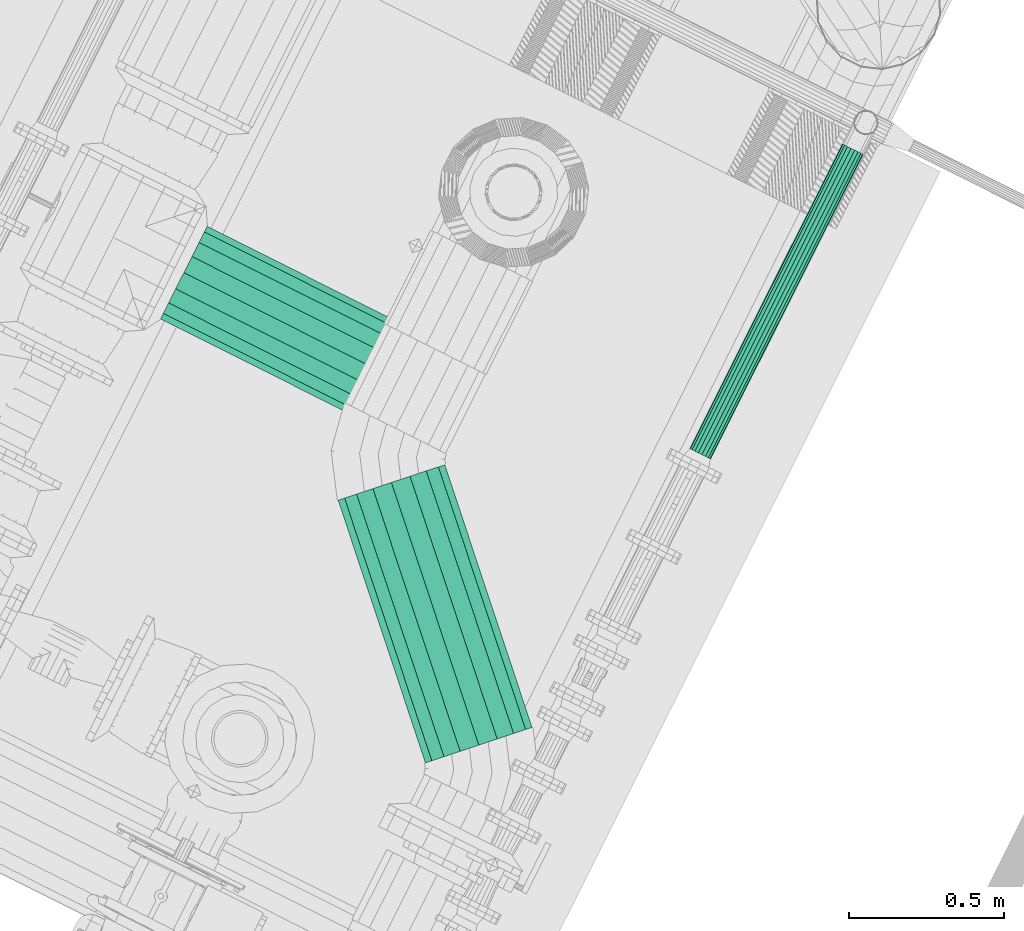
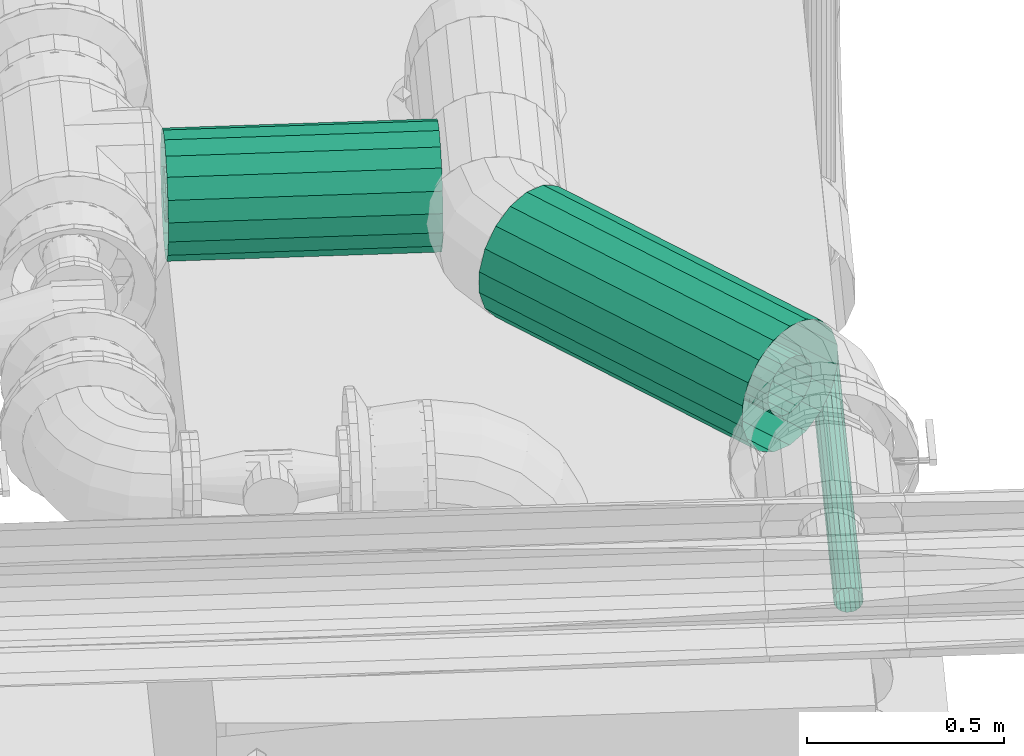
# One storey, part 6 of 206: 3 flow segments.
"""IFC2X3 building model written with IfcOpenShell, lengths in metres."""

from ifc_helpers import new_model, si_unit, derived_unit, direction, frame, origin, place, context, subcontext, project, spatial, face_set, surface_model, source, transform, mapped, material, type_object, type_shapes, element, save


model = new_model("IFC2X3")

# Units and contexts
model_context = context("Model", 3, precision=5.2338327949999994e-05, world=origin(), true_north=direction((0.0, 1.0)))
body_context = subcontext(model_context, "Body", "Model", "MODEL_VIEW")
ifc_project = project(units=[si_unit("LENGTHUNIT", "METRE"), si_unit("AREAUNIT", "SQUARE_METRE"), si_unit("VOLUMEUNIT", "CUBIC_METRE"), si_unit("MASSUNIT", "GRAM", prefix="KILO"), si_unit("PLANEANGLEUNIT", "RADIAN"), derived_unit("THERMALTRANSMITTANCEUNIT", [(si_unit("MASSUNIT", "GRAM", prefix="KILO"), 1), (si_unit("THERMODYNAMICTEMPERATUREUNIT", "KELVIN"), -1), (si_unit("TIMEUNIT", "SECOND"), -3)])], contexts=[model_context])

# Site, building, storey
site_placement = place(None, frame((0.0, 0.0, 0.0), z_axis=(0.0, 0.0, 1.0), x_axis=(0.8939966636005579, -0.4480736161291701, 0.0)))
site = spatial("IfcSite", under=ifc_project, at=site_placement, Name="Default", CompositionType="ELEMENT")
building_placement = place(site_placement, origin())
building = spatial("IfcBuilding", under=site, at=building_placement, CompositionType="ELEMENT")
storey_placement = place(building_placement, origin())
storey = spatial("IfcBuildingStorey", under=building, at=storey_placement, Name="Erdgeschoss", CompositionType="ELEMENT", Elevation=0.0)

# Flow segments
ifc_material_1 = material(Name="IfcSurfaceStyle #9317")
distribution_element_type_1 = type_object("IfcDistributionElementType", Name="Stahlrohr nach DIN 2448 341220:Stahlrohr nach DIN 2448 341220", material=ifc_material_1)
shared_shape_1 = source(origin(), body_context, "Body", "SurfaceModel", [
    surface_model("IfcFaceBasedSurfaceModel", [(25.69485543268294, 6.65896109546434, 2.4238499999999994), (25.69485543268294, 6.635070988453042, 2.419637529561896), (26.392823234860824, 6.635070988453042, 2.419637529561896), (26.392823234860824, 6.658961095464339, 2.423849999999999), (25.69485543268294, 6.614062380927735, 2.4075082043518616), (26.392823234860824, 6.614062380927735, 2.407508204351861), (25.69485543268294, 6.598469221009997, 2.388925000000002), (26.392823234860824, 6.598469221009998, 2.3889250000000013), (25.69485543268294, 6.590172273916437, 2.3661293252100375), (26.392823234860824, 6.590172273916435, 2.366129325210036), (25.69485543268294, 6.590172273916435, 2.341870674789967), (26.392823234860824, 6.590172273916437, 2.3418706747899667), (25.69485543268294, 6.598469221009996, 2.319075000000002), (26.392823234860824, 6.598469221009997, 2.319075), (25.69485543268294, 6.614062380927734, 2.3004917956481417), (26.392823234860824, 6.614062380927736, 2.3004917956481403), (25.69485543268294, 6.63507098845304, 2.2883624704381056), (26.392823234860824, 6.635070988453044, 2.2883624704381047), (25.69485543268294, 6.65896109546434, 2.28415), (26.392823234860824, 6.658961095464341, 2.2841500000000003), (25.69485543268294, 6.682851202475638, 2.288362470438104), (26.392823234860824, 6.682851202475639, 2.2883624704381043), (25.69485543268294, 6.703859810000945, 2.300491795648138), (26.392823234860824, 6.703859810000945, 2.3004917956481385), (25.69485543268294, 6.719452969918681, 2.3190749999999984), (26.392823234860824, 6.7194529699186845, 2.3190749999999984), (25.69485543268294, 6.727749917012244, 2.3418706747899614), (26.392823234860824, 6.727749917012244, 2.3418706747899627), (25.69485543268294, 6.727749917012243, 2.3661293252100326), (26.392823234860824, 6.727749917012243, 2.3661293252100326), (25.69485543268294, 6.719452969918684, 2.388924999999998), (26.392823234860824, 6.719452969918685, 2.388924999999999), (25.69485543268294, 6.703859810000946, 2.407508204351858), (26.392823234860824, 6.703859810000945, 2.407508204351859), (25.69485543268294, 6.6828512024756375, 2.419637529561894), (26.392823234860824, 6.6828512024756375, 2.419637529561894), (25.69485543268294, 6.65896109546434, 2.5238500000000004), (25.69485543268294, 6.60086897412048, 2.5136067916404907), (26.392823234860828, 6.600868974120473, 2.513606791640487), (26.392823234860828, 6.6589610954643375, 2.5238499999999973), (25.69485543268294, 6.549783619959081, 2.4841126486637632), (26.392823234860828, 6.549783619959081, 2.4841126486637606), (25.69485543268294, 6.5118666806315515, 2.4389250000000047), (26.392823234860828, 6.511866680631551, 2.438925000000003), (25.69485543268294, 6.491691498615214, 2.383494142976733), (26.392823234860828, 6.491691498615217, 2.383494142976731), (25.69485543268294, 6.491691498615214, 2.3245058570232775), (26.392823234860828, 6.491691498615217, 2.324505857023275), (25.69485543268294, 6.5118666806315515, 2.269075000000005), (26.392823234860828, 6.511866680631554, 2.2690750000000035), (25.69485543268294, 6.549783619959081, 2.223887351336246), (26.392823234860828, 6.549783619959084, 2.2238873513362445), (25.69485543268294, 6.600868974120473, 2.1943932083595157), (26.392823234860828, 6.600868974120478, 2.1943932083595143), (25.69485543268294, 6.658961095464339, 2.1841500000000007), (26.392823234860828, 6.658961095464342, 2.1841500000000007), (25.69485543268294, 6.717053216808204, 2.1943932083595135), (26.392823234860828, 6.717053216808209, 2.1943932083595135), (25.69485543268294, 6.768138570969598, 2.223887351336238), (26.392823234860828, 6.7681385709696, 2.2238873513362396), (25.69485543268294, 6.806055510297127, 2.269074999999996), (26.392823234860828, 6.806055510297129, 2.2690749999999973), (25.69485543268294, 6.826230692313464, 2.3245058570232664), (26.392823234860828, 6.826230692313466, 2.324505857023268), (25.69485543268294, 6.826230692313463, 2.3834941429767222), (26.392823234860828, 6.826230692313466, 2.383494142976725), (25.69485543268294, 6.806055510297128, 2.4389249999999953), (26.392823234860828, 6.806055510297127, 2.4389249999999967), (25.69485543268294, 6.768138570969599, 2.4841126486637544), (26.392823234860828, 6.768138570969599, 2.484112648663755), (25.69485543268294, 6.717053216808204, 2.513606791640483), (26.392823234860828, 6.717053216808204, 2.5136067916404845)], [face_set([[[0, 1, 2, 3]], [[1, 4, 5, 2]], [[4, 6, 7, 5]], [[6, 8, 9, 7]], [[8, 10, 11, 9]], [[10, 12, 13, 11]], [[12, 14, 15, 13]], [[14, 16, 17, 15]], [[16, 18, 19, 17]], [[18, 20, 21, 19]], [[20, 22, 23, 21]], [[22, 24, 25, 23]], [[24, 26, 27, 25]], [[26, 28, 29, 27]], [[28, 30, 31, 29]], [[30, 32, 33, 31]], [[32, 34, 35, 33]], [[34, 0, 3, 35]], [[36, 37, 38, 39]], [[37, 40, 41, 38]], [[40, 42, 43, 41]], [[42, 44, 45, 43]], [[44, 46, 47, 45]], [[46, 48, 49, 47]], [[48, 50, 51, 49]], [[50, 52, 53, 51]], [[52, 54, 55, 53]], [[54, 56, 57, 55]], [[56, 58, 59, 57]], [[58, 60, 61, 59]], [[60, 62, 63, 61]], [[62, 64, 65, 63]], [[64, 66, 67, 65]], [[66, 68, 69, 67]], [[68, 70, 71, 69]], [[70, 36, 39, 71]]])]),
])
type_shapes(distribution_element_type_1, [shared_shape_1])
flow_segment_1_placement = place(storey_placement, origin())
element("IfcFlowSegment", 1, at=flow_segment_1_placement, inside=storey, type_object=distribution_element_type_1, material=ifc_material_1, Name="Stahlrohr nach DIN 2448", ObjectType="Stahlrohr nach DIN 2448", context=body_context, shape_type="MappedRepresentation", body=[
    mapped(shared_shape_1, transform((0.0, 0.0, 0.0), scale=1.0)),
])
distribution_element_type_2 = type_object("IfcDistributionElementType", Name="Stahlrohr nach DIN 2448 342277:Stahlrohr nach DIN 2448 342277", material=ifc_material_1)
shared_shape_2 = source(origin(), body_context, "Body", "SurfaceModel", [
    surface_model("IfcFaceBasedSurfaceModel", [(26.59689578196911, 6.354033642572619, 2.4381500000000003), (26.576544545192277, 6.33368240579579, 2.4330751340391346), (27.20797644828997, 5.7022505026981, 2.4330751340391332), (27.2283276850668, 5.722601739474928, 2.438149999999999), (26.558647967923, 6.315785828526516, 2.418462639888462), (27.190079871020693, 5.684353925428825, 2.4184626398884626), (26.545364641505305, 6.30250250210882, 2.396074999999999), (27.176796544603, 5.671070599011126, 2.396074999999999), (26.538296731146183, 6.295434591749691, 2.368612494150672), (27.16972863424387, 5.664002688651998, 2.3686124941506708), (26.538296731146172, 6.295434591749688, 2.3393875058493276), (27.169728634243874, 5.664002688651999, 2.339387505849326), (26.545364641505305, 6.302502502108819, 2.311925), (27.176796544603, 5.671070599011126, 2.311925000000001), (26.558647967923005, 6.315785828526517, 2.2895373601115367), (27.190079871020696, 5.684353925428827, 2.2895373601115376), (26.576544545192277, 6.33368240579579, 2.2749248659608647), (27.207976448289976, 5.7022505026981, 2.274924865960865), (26.59689578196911, 6.354033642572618, 2.26985), (27.2283276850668, 5.722601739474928, 2.2698499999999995), (26.617247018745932, 6.374384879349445, 2.2749248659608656), (27.248678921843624, 5.742952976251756, 2.274924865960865), (26.635143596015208, 6.392281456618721, 2.2895373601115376), (27.266575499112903, 5.760849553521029, 2.2895373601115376), (26.648426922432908, 6.405564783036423, 2.3119249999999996), (27.2798588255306, 5.774132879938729, 2.311925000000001), (26.655494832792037, 6.412632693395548, 2.339387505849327), (27.28692673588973, 5.781200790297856, 2.3393875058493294), (26.65549483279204, 6.412632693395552, 2.368612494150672), (27.286926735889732, 5.78120079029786, 2.368612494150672), (26.64842692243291, 6.405564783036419, 2.3960749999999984), (27.2798588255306, 5.774132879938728, 2.396074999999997), (26.635143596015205, 6.39228145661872, 2.4184626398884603), (27.266575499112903, 5.760849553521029, 2.4184626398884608), (26.617247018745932, 6.374384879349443, 2.4330751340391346), (27.248678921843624, 5.742952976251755, 2.433075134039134), (26.596895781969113, 6.354033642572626, 2.5381500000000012), (26.552360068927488, 6.309497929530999, 2.5270443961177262), (27.183791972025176, 5.678066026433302, 2.5270443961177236), (27.228327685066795, 5.722601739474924, 2.538149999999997), (26.513196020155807, 6.270333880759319, 2.495067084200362), (27.144627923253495, 5.638901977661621, 2.495067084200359), (26.484127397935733, 6.241265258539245, 2.446075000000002), (27.11555930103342, 5.609833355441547, 2.4460750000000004), (26.468660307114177, 6.225798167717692, 2.3859773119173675), (27.100092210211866, 5.594366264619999, 2.385977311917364), (26.46866030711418, 6.225798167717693, 2.3220226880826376), (27.10009221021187, 5.594366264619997, 2.3220226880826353), (26.484127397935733, 6.24126525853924, 2.261925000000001), (27.11555930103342, 5.609833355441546, 2.2619249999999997), (26.513196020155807, 6.270333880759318, 2.2129329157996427), (27.144627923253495, 5.638901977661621, 2.21293291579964), (26.55236006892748, 6.309497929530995, 2.1809556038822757), (27.183791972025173, 5.678066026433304, 2.180955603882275), (26.59689578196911, 6.35403364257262, 2.16985), (27.2283276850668, 5.7226017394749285, 2.16985), (26.641431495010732, 6.398569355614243, 2.180955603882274), (27.272863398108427, 5.767137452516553, 2.1809556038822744), (26.68059554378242, 6.437733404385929, 2.212932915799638), (27.31202744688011, 5.806301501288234, 2.2129329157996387), (26.709664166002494, 6.466802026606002, 2.261924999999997), (27.341096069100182, 5.835370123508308, 2.2619249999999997), (26.725131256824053, 6.482269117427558, 2.322022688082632), (27.356563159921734, 5.85083721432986, 2.3220226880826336), (26.725131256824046, 6.48226911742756, 2.385977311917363), (27.356563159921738, 5.850837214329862, 2.3859773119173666), (26.709664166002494, 6.466802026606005, 2.446074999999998), (27.341096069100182, 5.835370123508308, 2.446075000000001), (26.68059554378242, 6.437733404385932, 2.495067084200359), (27.31202744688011, 5.806301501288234, 2.495067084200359), (26.64143149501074, 6.398569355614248, 2.5270443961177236), (27.27286339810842, 5.767137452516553, 2.527044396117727)], [face_set([[[0, 1, 2, 3]], [[1, 4, 5, 2]], [[4, 6, 7, 5]], [[6, 8, 9, 7]], [[8, 10, 11, 9]], [[10, 12, 13, 11]], [[12, 14, 15, 13]], [[14, 16, 17, 15]], [[16, 18, 19, 17]], [[18, 20, 21, 19]], [[20, 22, 23, 21]], [[22, 24, 25, 23]], [[24, 26, 27, 25]], [[26, 28, 29, 27]], [[28, 30, 31, 29]], [[30, 32, 33, 31]], [[32, 34, 35, 33]], [[34, 0, 3, 35]], [[36, 37, 38, 39]], [[37, 40, 41, 38]], [[40, 42, 43, 41]], [[42, 44, 45, 43]], [[44, 46, 47, 45]], [[46, 48, 49, 47]], [[48, 50, 51, 49]], [[50, 52, 53, 51]], [[52, 54, 55, 53]], [[54, 56, 57, 55]], [[56, 58, 59, 57]], [[58, 60, 61, 59]], [[60, 62, 63, 61]], [[62, 64, 65, 63]], [[64, 66, 67, 65]], [[66, 68, 69, 67]], [[68, 70, 71, 69]], [[70, 36, 39, 71]]])]),
])
type_shapes(distribution_element_type_2, [shared_shape_2])
flow_segment_2_placement = place(storey_placement, origin())
element("IfcFlowSegment", 2, at=flow_segment_2_placement, inside=storey, type_object=distribution_element_type_2, material=ifc_material_1, Name="Stahlrohr nach DIN 2448", ObjectType="Stahlrohr nach DIN 2448", context=body_context, shape_type="MappedRepresentation", body=[
    mapped(shared_shape_2, transform((0.0, 0.0, 0.0), scale=1.0)),
])
ifc_material_2 = material(Name="IfcSurfaceStyle #352577")
distribution_element_type_3 = type_object("IfcDistributionElementType", Name="Stahlrohr nach DIN 2448 604523:Stahlrohr nach DIN 2448 604523", material=ifc_material_2)
shared_shape_3 = source(origin(), body_context, "Body", "SurfaceModel", [
    surface_model("IfcFaceBasedSurfaceModel", [(27.483692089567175, 7.9821629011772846, 0.8699999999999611), (27.48139739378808, 7.9821629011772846, 0.883013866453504), (27.48139739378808, 6.8829583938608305, 0.883013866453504), (27.48369208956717, 6.8829583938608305, 0.869999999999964), (27.47479008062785, 7.9821629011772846, 0.8944580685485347), (27.47479008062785, 6.8829583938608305, 0.8944580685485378), (27.464667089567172, 7.9821629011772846, 0.9029522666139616), (27.464667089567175, 6.8829583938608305, 0.9029522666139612), (27.4522494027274, 7.9821629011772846, 0.9074719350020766), (27.4522494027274, 6.8829583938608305, 0.9074719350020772), (27.43903477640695, 7.9821629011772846, 0.9074719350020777), (27.43903477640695, 6.8829583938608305, 0.907471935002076), (27.426617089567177, 7.9821629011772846, 0.9029522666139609), (27.426617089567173, 6.8829583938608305, 0.9029522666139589), (27.416494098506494, 7.9821629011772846, 0.8944580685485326), (27.416494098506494, 6.8829583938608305, 0.8944580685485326), (27.409886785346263, 7.9821629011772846, 0.8830138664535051), (27.40988678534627, 6.8829583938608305, 0.8830138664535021), (27.407592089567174, 7.9821629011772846, 0.8699999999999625), (27.407592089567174, 6.8829583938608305, 0.86999999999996), (27.409886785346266, 7.9821629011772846, 0.8569861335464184), (27.409886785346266, 6.8829583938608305, 0.8569861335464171), (27.416494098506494, 7.9821629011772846, 0.84554193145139), (27.416494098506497, 6.8829583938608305, 0.8455419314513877), (27.426617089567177, 7.9821629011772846, 0.8370477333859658), (27.426617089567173, 6.8829583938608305, 0.8370477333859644), (27.439034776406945, 7.9821629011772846, 0.8325280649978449), (27.439034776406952, 6.8829583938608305, 0.8325280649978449), (27.4522494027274, 7.9821629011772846, 0.8325280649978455), (27.45224940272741, 6.8829583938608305, 0.8325280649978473), (27.464667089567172, 7.9821629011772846, 0.8370477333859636), (27.464667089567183, 6.8829583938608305, 0.837047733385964), (27.47479008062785, 7.9821629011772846, 0.84554193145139), (27.474790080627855, 6.8829583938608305, 0.8455419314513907), (27.48139739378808, 7.9821629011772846, 0.856986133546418), (27.48139739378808, 6.8829583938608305, 0.8569861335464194)], [face_set([[[0, 1, 2, 3]], [[1, 4, 5, 2]], [[4, 6, 7, 5]], [[6, 8, 9, 7]], [[8, 10, 11, 9]], [[10, 12, 13, 11]], [[12, 14, 15, 13]], [[14, 16, 17, 15]], [[16, 18, 19, 17]], [[18, 20, 21, 19]], [[20, 22, 23, 21]], [[22, 24, 25, 23]], [[24, 26, 27, 25]], [[26, 28, 29, 27]], [[28, 30, 31, 29]], [[30, 32, 33, 31]], [[32, 34, 35, 33]], [[34, 0, 3, 35]]])]),
])
type_shapes(distribution_element_type_3, [shared_shape_3])
flow_segment_3_placement = place(storey_placement, origin())
element("IfcFlowSegment", 3, at=flow_segment_3_placement, inside=storey, type_object=distribution_element_type_3, material=ifc_material_2, Name="Stahlrohr nach DIN 2448", ObjectType="Stahlrohr nach DIN 2448", context=body_context, shape_type="MappedRepresentation", body=[
    mapped(shared_shape_3, transform((0.0, 0.0, 0.0), scale=1.0)),
])

save(model, "model.ifc")
